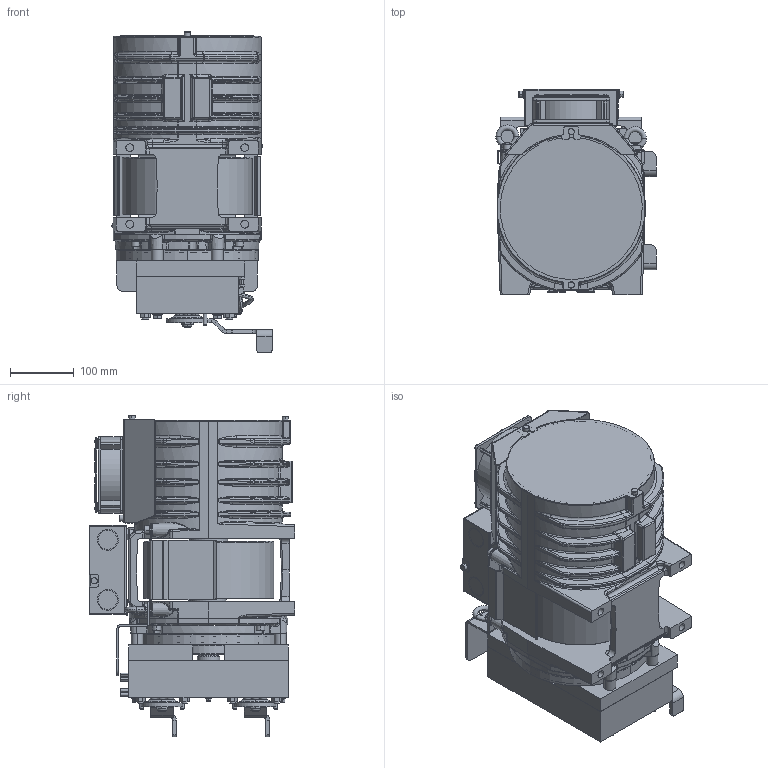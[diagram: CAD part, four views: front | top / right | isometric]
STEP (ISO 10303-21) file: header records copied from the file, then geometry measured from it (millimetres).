
FILE_DESCRIPTION((''),'2;1');
FILE_NAME('00363838_ASM','2020-06-05T',('furlanis'),('Sicor spa'),'CREO PARAMETRIC BY PTC INC, 2017170','CREO PARAMETRIC BY PTC INC, 2017170','');
FILE_SCHEMA(('CONFIG_CONTROL_DESIGN'));
Products named in the file (4): SGS4; _200_90; _200; 00363838_ASM
Assembly tree (4 placements, depth 2):
  00363838_ASM
    SGS4
    _200_90
    _200  x2
Bounding box: 251 x 322 x 503.02 mm (x, y, z)
Volume: 1483214.5 mm3; surface area: 1687307.4 mm2
Topology: 3 solids, 289 shells, 3486 faces, 11988 edges, 8482 vertices
Faces by surface type: plane 1486, cylinder 844, bspline 566, torus 330, cone 216, sphere 44
Entity records: 191898 total; most frequent: CARTESIAN_POINT 97497, ORIENTED_EDGE 18759, DIRECTION 17874, EDGE_CURVE 11828, VERTEX_POINT 8418, VECTOR 6216, LINE 6216, AXIS2_PLACEMENT_3D 5829
